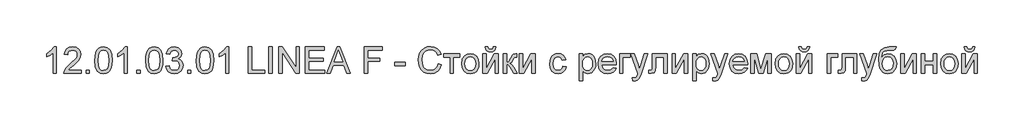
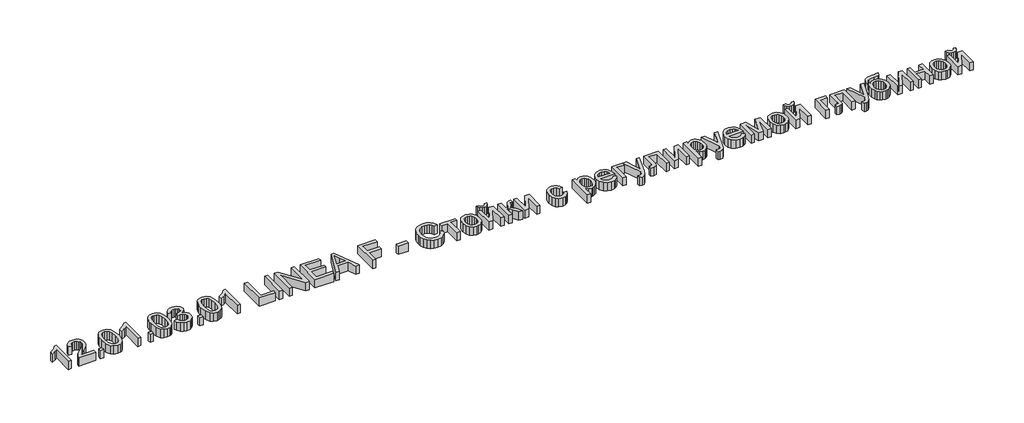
# One storey, part 6 of 9: 1 proxy.
"""IFC4 building model written with IfcOpenShell, lengths in millimetres."""

from ifc_helpers import new_model, si_unit, origin, origin_with_axes, place, context, project, spatial, polyline, outline, extrude, element, save

model = new_model("IFC4")

# Units and contexts
model_context = context("Model", 3, world=origin())
ifc_project = project(units=[si_unit("LENGTHUNIT", "METRE", prefix="MILLI")], contexts=[model_context])

# Site, building, storey
site = spatial("IfcSite", under=ifc_project)
building = spatial("IfcBuilding", under=site)
storey = spatial("IfcBuildingStorey", under=building, Name="Уровень 1", Elevation=0.0)

# Proxy
placement = place(None, origin())
element("IfcBuildingElementProxy", 1, Name="Надпись на модели 1", ObjectType="Надпись на модели 1", at=placement, inside=storey, context=model_context, shape_type="SweptSolid", body=[
    extrude(outline(polyline([(-45259.6762415, -17347.5177415), (-45278.13778, -17347.5177415), (-45278.13778, -17232.4215877), (-45295.6257608, -17244.8795203), (-45315.0608569, -17254.2004338), (-45315.0608569, -17236.7485107), (-45287.9995588, -17219.4768761), (-45271.57528, -17199.8254338), (-45259.6762415, -17199.8254338), (-45259.6762415, -17347.5177415)])), origin_with_axes(), (0.0, 0.0, 1.0), 50.0),
    extrude(outline(polyline([(-45121.2147031, -17329.056203), (-45121.2147031, -17347.5177415), (-45218.13778, -17347.5177415), (-45216.1546069, -17334.7893761), (-45204.9406646, -17315.1920203), (-45181.8276838, -17293.79178), (-45149.9526838, -17263.0345684), (-45143.9761213, -17252.4336069), (-45141.9839338, -17242.1211069), (-45143.8634411, -17232.876816), (-45149.5019627, -17225.1920203), (-45158.1693305, -17220.0132343), (-45169.1353762, -17218.2869723), (-45180.6513016, -17219.9726694), (-45189.5981165, -17225.0297607), (-45195.3718545, -17233.0616117), (-45197.3685492, -17243.6715877), (-45215.8300877, -17241.3638953), (-45211.3544266, -17223.5063232), (-45201.6774435, -17210.462453), (-45187.3039459, -17202.4846886), (-45168.7387415, -17199.8254338), (-45150.0383209, -17202.7821646), (-45135.6918665, -17211.6523569), (-45126.5647632, -17224.9035588), (-45123.5223954, -17241.0033184), (-45126.8036454, -17258.509328), (-45137.7110973, -17276.6102896), (-45164.1594146, -17301.9047607), (-45185.3973954, -17319.6631742), (-45193.7267223, -17329.056203), (-45121.2147031, -17329.056203)])), origin_with_axes(), (0.0, 0.0, 1.0), 50.0),
    extrude(outline(polyline([(-45093.5223954, -17347.5177415), (-45093.5223954, -17329.056203), (-45075.0608569, -17329.056203), (-45075.0608569, -17347.5177415), (-45093.5223954, -17347.5177415)])), origin_with_axes(), (0.0, 0.0, 1.0), 50.0),
    extrude(outline(polyline([(-45045.0608569, -17274.8614915), (-45043.7041863, -17251.221167), (-45039.6341742, -17232.3675011), (-45032.8913858, -17218.0120324), (-45023.5163858, -17207.8662992), (-45011.4415661, -17201.8356502), (-44996.5993185, -17199.8254338), (-44975.0368185, -17204.5850492), (-44960.1449915, -17218.3050011), (-44951.4911454, -17240.1559627), (-44948.13778, -17274.8614915), (-44949.480929, -17298.3665997), (-44953.5103762, -17317.1751934), (-44960.2125997, -17331.5441838), (-44969.5740781, -17341.7304819), (-44981.6759411, -17347.8016958), (-44996.5993185, -17349.8254338), (-45015.7820108, -17346.3098088), (-45030.3493185, -17335.7629338), (-45041.3829723, -17310.7839675), (-45045.0608569, -17274.8614915)]), holes=[polyline([(-45026.5993185, -17274.8254338), (-45024.4358569, -17303.8653977), (-45017.9454723, -17320.6727896), (-45008.2820108, -17328.6911189), (-44996.5993185, -17331.3638953), (-44984.9166262, -17328.6821045), (-44975.2531646, -17320.6367319), (-44968.76278, -17303.8203256), (-44966.5993185, -17274.8254338), (-44968.6906646, -17246.4390155), (-44974.9647031, -17229.5009146), (-44984.6101358, -17221.0904578), (-44996.8156646, -17218.2869723), (-45008.372155, -17220.7569242), (-45017.6570108, -17228.16678), (-45024.3637415, -17246.1595684), (-45026.5993185, -17274.8254338)])]), origin_with_axes(), (0.0, 0.0, 1.0), 50.0),
    extrude(outline(polyline([(-44862.7531646, -17347.5177415), (-44881.2147031, -17347.5177415), (-44881.2147031, -17232.4215877), (-44898.7026838, -17244.8795203), (-44918.13778, -17254.2004338), (-44918.13778, -17236.7485107), (-44891.0764819, -17219.4768761), (-44874.6522031, -17199.8254338), (-44862.7531646, -17199.8254338), (-44862.7531646, -17347.5177415)])), origin_with_axes(), (0.0, 0.0, 1.0), 50.0),
    extrude(outline(polyline([(-44809.6762415, -17347.5177415), (-44809.6762415, -17329.056203), (-44791.2147031, -17329.056203), (-44791.2147031, -17347.5177415), (-44809.6762415, -17347.5177415)])), origin_with_axes(), (0.0, 0.0, 1.0), 50.0),
    extrude(outline(polyline([(-44761.2147031, -17274.8614915), (-44759.8580324, -17251.221167), (-44755.7880204, -17232.3675011), (-44749.0452319, -17218.0120324), (-44739.6702319, -17207.8662992), (-44727.5954122, -17201.8356502), (-44712.7531646, -17199.8254338), (-44691.1906646, -17204.5850492), (-44676.2988377, -17218.3050011), (-44667.6449915, -17240.1559627), (-44664.2916262, -17274.8614915), (-44665.6347752, -17298.3665997), (-44669.6642223, -17317.1751934), (-44676.3664459, -17331.5441838), (-44685.7279242, -17341.7304819), (-44697.8297872, -17347.8016958), (-44712.7531646, -17349.8254338), (-44731.9358569, -17346.3098088), (-44746.5031646, -17335.7629338), (-44757.5368185, -17310.7839675), (-44761.2147031, -17274.8614915)]), holes=[polyline([(-44742.7531646, -17274.8254338), (-44740.5897031, -17303.8653977), (-44734.0993185, -17320.6727896), (-44724.4358569, -17328.6911189), (-44712.7531646, -17331.3638953), (-44701.0704723, -17328.6821045), (-44691.4070108, -17320.6367319), (-44684.9166262, -17303.8203256), (-44682.7531646, -17274.8254338), (-44684.8445108, -17246.4390155), (-44691.1185492, -17229.5009146), (-44700.7639819, -17221.0904578), (-44712.9695108, -17218.2869723), (-44724.5260012, -17220.7569242), (-44733.8108569, -17228.16678), (-44740.5175877, -17246.1595684), (-44742.7531646, -17274.8254338)])]), origin_with_axes(), (0.0, 0.0, 1.0), 50.0),
    extrude(outline(polyline([(-44648.13778, -17308.2869723), (-44629.6762415, -17305.97928), (-44625.5431286, -17317.5808425), (-44619.4899435, -17325.4143761), (-44611.2192103, -17329.8765155), (-44600.4334531, -17331.3638953), (-44587.7772031, -17329.3176213), (-44578.0055685, -17323.1787992), (-44571.7585733, -17314.0201453), (-44569.6762415, -17302.9143761), (-44571.7405444, -17292.3720083), (-44577.9334531, -17283.821828), (-44587.3084531, -17278.1562631), (-44598.91903, -17276.2677415), (-44611.8637415, -17278.2869723), (-44609.8084531, -17259.8254338), (-44606.8517223, -17260.04178), (-44585.9022031, -17254.7412992), (-44578.9250396, -17248.0165396), (-44576.5993185, -17238.4432223), (-44578.2850156, -17230.4699651), (-44583.3421069, -17224.0021165), (-44591.0584531, -17219.7157583), (-44600.7219146, -17218.2869723), (-44610.403405, -17219.72928), (-44618.3180685, -17224.056203), (-44624.0963137, -17231.2677415), (-44627.3685492, -17241.3638953), (-44645.8300877, -17239.056203), (-44640.3943906, -17222.478679), (-44630.7219146, -17210.1018761), (-44617.4887415, -17202.3945444), (-44601.3709531, -17199.8254338), (-44579.1053281, -17204.8915396), (-44563.528405, -17218.7376934), (-44558.13778, -17237.3614915), (-44563.2579723, -17254.3807223), (-44578.4022031, -17266.60428), (-44566.8457127, -17271.2737511), (-44558.2820108, -17279.2244723), (-44552.98153, -17290.0237511), (-44551.2147031, -17303.2388953), (-44554.7483569, -17321.2316838), (-44565.3493185, -17336.2677415), (-44581.3499194, -17346.4360107), (-44601.0824915, -17349.8254338), (-44618.9310492, -17346.931804), (-44633.4622992, -17338.2509146), (-44643.5674675, -17324.9726694), (-44648.13778, -17308.2869723)])), origin_with_axes(), (0.0, 0.0, 1.0), 50.0),
    extrude(outline(polyline([(-44525.8300877, -17347.5177415), (-44525.8300877, -17329.056203), (-44507.3685492, -17329.056203), (-44507.3685492, -17347.5177415), (-44525.8300877, -17347.5177415)])), origin_with_axes(), (0.0, 0.0, 1.0), 50.0),
    extrude(outline(polyline([(-44477.3685492, -17274.8614915), (-44476.0118786, -17251.221167), (-44471.9418665, -17232.3675011), (-44465.1990781, -17218.0120324), (-44455.8240781, -17207.8662992), (-44443.7492584, -17201.8356502), (-44428.9070108, -17199.8254338), (-44407.3445108, -17204.5850492), (-44392.4526838, -17218.3050011), (-44383.7988377, -17240.1559627), (-44380.4454723, -17274.8614915), (-44381.7886213, -17298.3665997), (-44385.8180685, -17317.1751934), (-44392.520292, -17331.5441838), (-44401.8817704, -17341.7304819), (-44413.9836334, -17347.8016958), (-44428.9070108, -17349.8254338), (-44448.0897031, -17346.3098088), (-44462.6570108, -17335.7629338), (-44473.6906646, -17310.7839675), (-44477.3685492, -17274.8614915)]), holes=[polyline([(-44458.9070108, -17274.8254338), (-44456.7435492, -17303.8653977), (-44450.2531646, -17320.6727896), (-44440.5897031, -17328.6911189), (-44428.9070108, -17331.3638953), (-44417.2243185, -17328.6821045), (-44407.5608569, -17320.6367319), (-44401.0704723, -17303.8203256), (-44398.9070108, -17274.8254338), (-44400.9983569, -17246.4390155), (-44407.2723954, -17229.5009146), (-44416.9178281, -17221.0904578), (-44429.1233569, -17218.2869723), (-44440.6798473, -17220.7569242), (-44449.9647031, -17228.16678), (-44456.6714338, -17246.1595684), (-44458.9070108, -17274.8254338)])]), origin_with_axes(), (0.0, 0.0, 1.0), 50.0),
    extrude(outline(polyline([(-44295.0608569, -17347.5177415), (-44313.5223954, -17347.5177415), (-44313.5223954, -17232.4215877), (-44331.0103762, -17244.8795203), (-44350.4454723, -17254.2004338), (-44350.4454723, -17236.7485107), (-44323.3841742, -17219.4768761), (-44306.9598954, -17199.8254338), (-44295.0608569, -17199.8254338), (-44295.0608569, -17347.5177415)])), origin_with_axes(), (0.0, 0.0, 1.0), 50.0),
    extrude(outline(polyline([(-44186.5993185, -17347.5177415), (-44186.5993185, -17199.8254338), (-44168.13778, -17199.8254338), (-44168.13778, -17329.056203), (-44094.2916262, -17329.056203), (-44094.2916262, -17347.5177415), (-44186.5993185, -17347.5177415)])), origin_with_axes(), (0.0, 0.0, 1.0), 50.0),
    extrude(outline(polyline([(-44071.2147031, -17347.5177415), (-44071.2147031, -17199.8254338), (-44052.7531646, -17199.8254338), (-44052.7531646, -17347.5177415), (-44071.2147031, -17347.5177415)])), origin_with_axes(), (0.0, 0.0, 1.0), 50.0),
    extrude(outline(polyline([(-44015.8300877, -17347.5177415), (-44015.8300877, -17199.8254338), (-43996.0704723, -17199.8254338), (-43918.9070108, -17316.8326453), (-43918.9070108, -17199.8254338), (-43900.4454723, -17199.8254338), (-43900.4454723, -17347.5177415), (-43920.2050877, -17347.5177415), (-43997.3685492, -17230.4744723), (-43997.3685492, -17347.5177415), (-44015.8300877, -17347.5177415)])), origin_with_axes(), (0.0, 0.0, 1.0), 50.0),
    extrude(outline(polyline([(-43868.13778, -17347.5177415), (-43868.13778, -17199.8254338), (-43761.9839338, -17199.8254338), (-43761.9839338, -17218.2869723), (-43849.6762415, -17218.2869723), (-43849.6762415, -17262.1331261), (-43766.5993185, -17262.1331261), (-43766.5993185, -17280.5946646), (-43849.6762415, -17280.5946646), (-43849.6762415, -17329.056203), (-43759.6762415, -17329.056203), (-43759.6762415, -17347.5177415), (-43868.13778, -17347.5177415)])), origin_with_axes(), (0.0, 0.0, 1.0), 50.0),
    extrude(outline(polyline([(-43749.1834531, -17347.5177415), (-43690.2291262, -17199.8254338), (-43674.5079723, -17199.8254338), (-43615.5536454, -17347.5177415), (-43635.0608569, -17347.5177415), (-43651.9719146, -17301.3638953), (-43712.8012415, -17301.3638953), (-43729.6762415, -17347.5177415), (-43749.1834531, -17347.5177415)]), holes=[polyline([(-43706.0223954, -17282.9023569), (-43658.7147031, -17282.9023569), (-43672.0199915, -17246.5922607), (-43682.3685492, -17218.2869723), (-43691.5632608, -17243.4191838), (-43706.0223954, -17282.9023569)])]), origin_with_axes(), (0.0, 0.0, 1.0), 50.0),
    extrude(outline(polyline([(-43538.13778, -17347.5177415), (-43538.13778, -17199.8254338), (-43438.9070108, -17199.8254338), (-43438.9070108, -17218.2869723), (-43519.6762415, -17218.2869723), (-43519.6762415, -17262.1331261), (-43450.4454723, -17262.1331261), (-43450.4454723, -17280.5946646), (-43519.6762415, -17280.5946646), (-43519.6762415, -17347.5177415), (-43538.13778, -17347.5177415)])), origin_with_axes(), (0.0, 0.0, 1.0), 50.0),
    extrude(outline(polyline([(-43367.3685492, -17303.6715877), (-43367.3685492, -17285.2100492), (-43309.6762415, -17285.2100492), (-43309.6762415, -17303.6715877), (-43367.3685492, -17303.6715877)])), origin_with_axes(), (0.0, 0.0, 1.0), 50.0),
    extrude(outline(polyline([(-43125.0608569, -17295.0177415), (-43106.5993185, -17299.7773569), (-43115.1179483, -17321.2902776), (-43128.4863377, -17337.0069242), (-43146.0464338, -17346.6208064), (-43167.1401838, -17349.8254338), (-43188.5539459, -17347.400554), (-43205.559655, -17340.1259146), (-43218.5945108, -17328.2539194), (-43228.0957127, -17312.0369723), (-43233.8964939, -17292.9714675), (-43235.8300877, -17272.5537992), (-43233.6440901, -17251.0183425), (-43227.0860973, -17232.4215877), (-43216.4986574, -17217.3539795), (-43202.2243185, -17206.4059627), (-43185.2952319, -17199.7397968), (-43166.7435492, -17197.5177415), (-43146.5016622, -17200.3933425), (-43129.7663858, -17209.0201453), (-43117.0605564, -17222.8662992), (-43108.9070108, -17241.399953), (-43127.3685492, -17245.7989915), (-43133.7687896, -17232.3359506), (-43142.51278, -17223.1006742), (-43153.7086935, -17217.7596285), (-43167.4647031, -17215.97928), (-43183.3210733, -17217.9534386), (-43196.3469146, -17223.8759146), (-43206.2312295, -17233.1247127), (-43212.6630204, -17245.0778377), (-43217.3685492, -17272.5177415), (-43211.7976358, -17304.3206261), (-43204.6762415, -17316.1971285), (-43194.4538858, -17324.6391357), (-43182.1987776, -17329.6827054), (-43168.9791262, -17331.3638953), (-43153.5689699, -17329.0742319), (-43140.7279242, -17322.2052415), (-43131.0329122, -17310.8290396), (-43125.0608569, -17295.0177415)])), origin_with_axes(), (0.0, 0.0, 1.0), 50.0),
    extrude(outline(polyline([(-43092.7531646, -17239.056203), (-43005.0608569, -17239.056203), (-43005.0608569, -17257.5177415), (-43039.6762415, -17257.5177415), (-43039.6762415, -17347.5177415), (-43058.13778, -17347.5177415), (-43058.13778, -17257.5177415), (-43092.7531646, -17257.5177415), (-43092.7531646, -17239.056203)])), origin_with_axes(), (0.0, 0.0, 1.0), 50.0),
    extrude(outline(polyline([(-42993.5223954, -17293.2869723), (-42989.529006, -17267.1361309), (-42977.5488377, -17248.7557223), (-42962.747155, -17239.7503136), (-42945.0247992, -17236.7485107), (-42925.630268, -17240.4038593), (-42910.1389819, -17251.369905), (-42899.9842343, -17268.7812631), (-42896.5993185, -17291.7725492), (-42898.0957127, -17310.4233905), (-42902.5848954, -17324.6211069), (-42909.9361574, -17335.2536189), (-42920.0187896, -17343.2088473), (-42931.9944507, -17348.1712872), (-42945.0247992, -17349.8254338), (-42964.6537055, -17346.1836069), (-42980.1269627, -17335.2581261), (-42990.1735372, -17317.4816838), (-42993.5223954, -17293.2869723)]), holes=[polyline([(-42975.0608569, -17293.2509146), (-42972.9244387, -17309.9591477), (-42966.5151838, -17321.8626934), (-42956.8697512, -17328.9885949), (-42945.0247992, -17331.3638953), (-42933.2339338, -17328.9750732), (-42923.60653, -17321.8086069), (-42917.1972752, -17309.7473088), (-42915.0608569, -17292.6739915), (-42917.2107968, -17276.4525372), (-42923.6606165, -17264.7112511), (-42933.301542, -17257.5853497), (-42945.0247992, -17255.2100492), (-42956.8697512, -17257.5763352), (-42966.5151838, -17264.6751934), (-42972.9244387, -17276.5516958), (-42975.0608569, -17293.2509146)])]), origin_with_axes(), (0.0, 0.0, 1.0), 50.0),
    extrude(outline(polyline([(-42815.8300877, -17199.8254338), (-42801.9839338, -17199.8254338), (-42804.9632007, -17211.6478497), (-42810.9442704, -17220.3602896), (-42819.6567103, -17225.7283785), (-42830.8300877, -17227.5177415), (-42842.9544867, -17225.7419002), (-42852.35653, -17220.4143761), (-42858.7838137, -17211.7154578), (-42861.9839338, -17199.8254338), (-42848.13778, -17199.8254338), (-42842.9454723, -17210.228078), (-42832.4887415, -17213.6715877), (-42821.0223954, -17210.3362511), (-42815.8300877, -17199.8254338)])), origin_with_axes(), (0.0, 0.0, 1.0), 50.0),
    extrude(outline(polyline([(-42875.8300877, -17239.056203), (-42857.3685492, -17239.056203), (-42857.3685492, -17321.7725492), (-42812.0079723, -17239.056203), (-42788.13778, -17239.056203), (-42788.13778, -17347.5177415), (-42806.5993185, -17347.5177415), (-42806.5993185, -17265.306203), (-42851.6714338, -17347.5177415), (-42875.8300877, -17347.5177415), (-42875.8300877, -17239.056203)])), origin_with_axes(), (0.0, 0.0, 1.0), 50.0),
    extrude(outline(polyline([(-42760.4454723, -17239.056203), (-42741.9839338, -17239.056203), (-42741.9839338, -17285.2100492), (-42729.6161454, -17281.8927415), (-42719.4839338, -17262.5658184), (-42711.0644627, -17245.8891357), (-42703.6365781, -17240.462453), (-42690.1329723, -17239.056203), (-42686.5993185, -17239.056203), (-42686.5993185, -17257.6259146), (-42691.57528, -17257.5177415), (-42700.5897031, -17259.4648569), (-42706.9358569, -17271.6162992), (-42714.3817704, -17284.759328), (-42724.8204723, -17291.1956261), (-42713.1738377, -17298.3801213), (-42701.7435492, -17313.5153377), (-42681.9839338, -17347.5177415), (-42702.9695108, -17347.5177415), (-42722.3324915, -17314.2364915), (-42732.0680685, -17300.1559627), (-42741.9839338, -17296.7485107), (-42741.9839338, -17347.5177415), (-42760.4454723, -17347.5177415), (-42760.4454723, -17239.056203)])), origin_with_axes(), (0.0, 0.0, 1.0), 50.0),
    extrude(outline(polyline([(-42670.4454723, -17239.056203), (-42651.9839338, -17239.056203), (-42651.9839338, -17321.7725492), (-42606.6233569, -17239.056203), (-42582.7531646, -17239.056203), (-42582.7531646, -17347.5177415), (-42601.2147031, -17347.5177415), (-42601.2147031, -17265.306203), (-42646.2868185, -17347.5177415), (-42670.4454723, -17347.5177415), (-42670.4454723, -17239.056203)])), origin_with_axes(), (0.0, 0.0, 1.0), 50.0),
    extrude(outline(polyline([(-42428.13778, -17308.2869723), (-42409.6762415, -17310.5946646), (-42414.8234771, -17327.0144362), (-42424.4959531, -17339.4227896), (-42437.7832127, -17347.2247727), (-42453.7747992, -17349.8254338), (-42473.4127199, -17346.1971285), (-42488.7687896, -17335.3122127), (-42498.6801478, -17317.6484506), (-42501.9839338, -17293.6836069), (-42496.340905, -17263.0165396), (-42489.2195108, -17251.5186429), (-42479.1413858, -17243.3110107), (-42467.0845949, -17238.3891357), (-42454.0272031, -17236.7485107), (-42438.4277439, -17239.0021165), (-42425.9562896, -17245.7629338), (-42417.0094747, -17256.6703857), (-42411.9839338, -17271.3638953), (-42430.4454723, -17273.6715877), (-42439.0091742, -17259.8434627), (-42453.8829723, -17255.2100492), (-42465.8135613, -17257.4906982), (-42475.2832127, -17264.3326453), (-42481.4625997, -17276.1054819), (-42483.5223954, -17293.1787992), (-42481.5076718, -17310.4819843), (-42475.4635012, -17322.2953857), (-42466.1651238, -17329.0967679), (-42454.38778, -17331.3638953), (-42444.8279843, -17329.9486309), (-42436.9899435, -17325.7028377), (-42431.2883209, -17318.5183425), (-42428.13778, -17308.2869723)])), origin_with_axes(), (0.0, 0.0, 1.0), 50.0),
    extrude(outline(polyline([(-42335.8300877, -17389.056203), (-42335.8300877, -17239.056203), (-42317.3685492, -17239.056203), (-42317.3685492, -17257.1571646), (-42304.6041262, -17241.8506742), (-42287.3685492, -17236.7485107), (-42274.8835733, -17238.5333665), (-42263.9671069, -17243.8879338), (-42255.0788858, -17252.4876934), (-42248.6786454, -17264.0081261), (-42243.5223954, -17292.4576453), (-42244.9782247, -17308.2464074), (-42249.3457127, -17322.3675011), (-42256.4851358, -17334.10428), (-42266.2567704, -17342.7400973), (-42277.6374795, -17348.0540997), (-42289.6041262, -17349.8254338), (-42305.6678281, -17345.0838473), (-42317.3685492, -17333.0946646), (-42317.3685492, -17389.056203), (-42335.8300877, -17389.056203)]), holes=[polyline([(-42317.3685492, -17294.1523569), (-42315.3718545, -17310.7028377), (-42309.3817704, -17322.2773569), (-42300.5431286, -17329.0922607), (-42290.0007608, -17331.3638953), (-42279.2871189, -17329.0111309), (-42270.2231165, -17321.9528377), (-42264.0437295, -17309.9546405), (-42261.9839338, -17292.7821646), (-42263.9941502, -17276.321828), (-42270.0247992, -17264.5850492), (-42278.8499194, -17257.5537992), (-42289.2435492, -17255.2100492), (-42299.6777439, -17257.7025372), (-42308.840905, -17265.1800011), (-42315.2366382, -17277.408066), (-42317.3685492, -17294.1523569)])]), origin_with_axes(), (0.0, 0.0, 1.0), 50.0),
    extrude(outline(polyline([(-42146.8156646, -17315.2100492), (-42128.7147031, -17317.5177415), (-42135.2366382, -17331.1565636), (-42145.6437896, -17341.3518761), (-42159.7017824, -17347.7070444), (-42177.1762415, -17349.8254338), (-42198.8379002, -17346.1700852), (-42215.5055685, -17335.2040396), (-42226.1335733, -17317.6394362), (-42229.6762415, -17294.1884146), (-42226.0975156, -17269.9486309), (-42215.3613377, -17251.8206261), (-42198.91903, -17240.5165396), (-42178.2219146, -17236.7485107), (-42158.1693305, -17240.5075252), (-42142.1461935, -17251.7845684), (-42131.6398834, -17269.8765155), (-42128.13778, -17294.0802415), (-42128.2459531, -17299.056203), (-42211.2147031, -17299.056203), (-42208.0190901, -17312.8753136), (-42200.5957127, -17323.0345684), (-42189.8820709, -17329.2815636), (-42176.8156646, -17331.3638953), (-42158.7147031, -17327.5057223), (-42146.8156646, -17315.2100492)]), holes=[polyline([(-42211.2147031, -17280.5946646), (-42146.5993185, -17280.5946646), (-42149.0963137, -17270.8410588), (-42153.9911454, -17263.8638953), (-42164.7543665, -17257.3735107), (-42178.29403, -17255.2100492), (-42190.7384411, -17256.9363112), (-42201.028405, -17262.1150973), (-42208.1813497, -17270.1875131), (-42211.2147031, -17280.5946646)])]), origin_with_axes(), (0.0, 0.0, 1.0), 50.0),
    extrude(outline(polyline([(-42109.6762415, -17239.056203), (-42049.6762415, -17239.056203), (-42049.6762415, -17257.5177415), (-42091.2147031, -17257.5177415), (-42091.2147031, -17347.5177415), (-42109.6762415, -17347.5177415), (-42109.6762415, -17239.056203)])), origin_with_axes(), (0.0, 0.0, 1.0), 50.0),
    extrude(outline(polyline([(-42035.8300877, -17389.056203), (-42038.13778, -17371.2797607), (-42028.76278, -17372.9023569), (-42020.0007608, -17370.8650973), (-42014.6281646, -17365.1860107), (-42009.5800877, -17351.5922607), (-42008.13778, -17347.1211069), (-42047.3685492, -17239.056203), (-42027.8973954, -17239.056203), (-42007.0921069, -17299.2725492), (-41999.8445108, -17323.3590877), (-41992.5969146, -17302.0850492), (-41971.2147031, -17239.056203), (-41951.88778, -17239.056203), (-41989.6401838, -17350.1138953), (-41999.4478762, -17374.2004338), (-42010.1570108, -17387.2172607), (-42024.54403, -17391.3638953), (-42035.8300877, -17389.056203)])), origin_with_axes(), (0.0, 0.0, 1.0), 50.0),
    extrude(outline(polyline([(-41927.3685492, -17239.056203), (-41844.2916262, -17239.056203), (-41844.2916262, -17347.4095684), (-41862.7531646, -17347.4095684), (-41862.7531646, -17257.5177415), (-41908.9070108, -17257.5177415), (-41908.9070108, -17309.26053), (-41910.1510012, -17333.1307223), (-41916.9839338, -17343.2088473), (-41933.13778, -17347.5177415), (-41948.13778, -17346.5802415), (-41948.13778, -17329.056203), (-41939.8805685, -17329.056203), (-41931.5332127, -17327.9203857), (-41928.1978762, -17324.3146165), (-41927.3685492, -17308.2148569), (-41927.3685492, -17239.056203)])), origin_with_axes(), (0.0, 0.0, 1.0), 50.0),
    extrude(outline(polyline([(-41816.5993185, -17239.056203), (-41798.13778, -17239.056203), (-41798.13778, -17321.7725492), (-41752.7772031, -17239.056203), (-41728.9070108, -17239.056203), (-41728.9070108, -17347.5177415), (-41747.3685492, -17347.5177415), (-41747.3685492, -17265.306203), (-41792.4406646, -17347.5177415), (-41816.5993185, -17347.5177415), (-41816.5993185, -17239.056203)])), origin_with_axes(), (0.0, 0.0, 1.0), 50.0),
    extrude(outline(polyline([(-41701.2147031, -17389.056203), (-41701.2147031, -17239.056203), (-41682.7531646, -17239.056203), (-41682.7531646, -17257.1571646), (-41669.9887415, -17241.8506742), (-41652.7531646, -17236.7485107), (-41640.2681887, -17238.5333665), (-41629.3517223, -17243.8879338), (-41620.4635012, -17252.4876934), (-41614.0632608, -17264.0081261), (-41608.9070108, -17292.4576453), (-41610.3628401, -17308.2464074), (-41614.7303281, -17322.3675011), (-41621.8697512, -17334.10428), (-41631.6413858, -17342.7400973), (-41643.0220949, -17348.0540997), (-41654.9887415, -17349.8254338), (-41671.0524435, -17345.0838473), (-41682.7531646, -17333.0946646), (-41682.7531646, -17389.056203), (-41701.2147031, -17389.056203)]), holes=[polyline([(-41682.7531646, -17294.1523569), (-41680.7564699, -17310.7028377), (-41674.7663858, -17322.2773569), (-41665.9277439, -17329.0922607), (-41655.3853762, -17331.3638953), (-41644.6717343, -17329.0111309), (-41635.6077319, -17321.9528377), (-41629.4283449, -17309.9546405), (-41627.3685492, -17292.7821646), (-41629.3787656, -17276.321828), (-41635.4094146, -17264.5850492), (-41644.2345348, -17257.5537992), (-41654.6281646, -17255.2100492), (-41665.0623593, -17257.7025372), (-41674.2255204, -17265.1800011), (-41680.6212536, -17277.408066), (-41682.7531646, -17294.1523569)])]), origin_with_axes(), (0.0, 0.0, 1.0), 50.0),
    extrude(outline(polyline([(-41588.13778, -17389.056203), (-41590.4454723, -17371.2797607), (-41581.0704723, -17372.9023569), (-41572.3084531, -17370.8650973), (-41566.9358569, -17365.1860107), (-41561.88778, -17351.5922607), (-41560.4454723, -17347.1211069), (-41599.6762415, -17239.056203), (-41580.2050877, -17239.056203), (-41559.3997992, -17299.2725492), (-41552.1522031, -17323.3590877), (-41544.9046069, -17302.0850492), (-41523.5223954, -17239.056203), (-41504.1954723, -17239.056203), (-41541.9478762, -17350.1138953), (-41551.7555685, -17374.2004338), (-41562.4647031, -17387.2172607), (-41576.8517223, -17391.3638953), (-41588.13778, -17389.056203)])), origin_with_axes(), (0.0, 0.0, 1.0), 50.0),
    extrude(outline(polyline([(-41412.9695108, -17315.2100492), (-41394.8685492, -17317.5177415), (-41401.3904843, -17331.1565636), (-41411.7976358, -17341.3518761), (-41425.8556286, -17347.7070444), (-41443.3300877, -17349.8254338), (-41464.9917463, -17346.1700852), (-41481.6594146, -17335.2040396), (-41492.2874194, -17317.6394362), (-41495.8300877, -17294.1884146), (-41492.2513617, -17269.9486309), (-41481.5151838, -17251.8206261), (-41465.0728762, -17240.5165396), (-41444.3757608, -17236.7485107), (-41424.3231766, -17240.5075252), (-41408.3000396, -17251.7845684), (-41397.7937295, -17269.8765155), (-41394.2916262, -17294.0802415), (-41394.3997992, -17299.056203), (-41477.3685492, -17299.056203), (-41474.1729363, -17312.8753136), (-41466.7495588, -17323.0345684), (-41456.035917, -17329.2815636), (-41442.9695108, -17331.3638953), (-41424.8685492, -17327.5057223), (-41412.9695108, -17315.2100492)]), holes=[polyline([(-41477.3685492, -17280.5946646), (-41412.7531646, -17280.5946646), (-41415.2501598, -17270.8410588), (-41420.1449915, -17263.8638953), (-41430.9082127, -17257.3735107), (-41444.4478762, -17255.2100492), (-41456.8922872, -17256.9363112), (-41467.1822512, -17262.1150973), (-41474.3351959, -17270.1875131), (-41477.3685492, -17280.5946646)])]), origin_with_axes(), (0.0, 0.0, 1.0), 50.0),
    extrude(outline(polyline([(-41375.8300877, -17239.056203), (-41344.0632608, -17239.056203), (-41319.5800877, -17325.8831261), (-41293.1858569, -17239.056203), (-41262.7531646, -17239.056203), (-41262.7531646, -17347.5177415), (-41281.2147031, -17347.5177415), (-41281.2147031, -17260.1860107), (-41307.7531646, -17347.5177415), (-41331.9839338, -17347.5177415), (-41357.3685492, -17256.0033184), (-41357.3685492, -17347.5177415), (-41375.8300877, -17347.5177415), (-41375.8300877, -17239.056203)])), origin_with_axes(), (0.0, 0.0, 1.0), 50.0),
    extrude(outline(polyline([(-41239.6762415, -17293.2869723), (-41235.6828521, -17267.1361309), (-41223.7026838, -17248.7557223), (-41208.9010012, -17239.7503136), (-41191.1786454, -17236.7485107), (-41171.7841141, -17240.4038593), (-41156.2928281, -17251.369905), (-41146.1380805, -17268.7812631), (-41142.7531646, -17291.7725492), (-41144.2495588, -17310.4233905), (-41148.7387415, -17324.6211069), (-41156.0900036, -17335.2536189), (-41166.1726358, -17343.2088473), (-41178.1482968, -17348.1712872), (-41191.1786454, -17349.8254338), (-41210.8075516, -17346.1836069), (-41226.2808088, -17335.2581261), (-41236.3273834, -17317.4816838), (-41239.6762415, -17293.2869723)]), holes=[polyline([(-41221.2147031, -17293.2509146), (-41219.0782848, -17309.9591477), (-41212.66903, -17321.8626934), (-41203.0235973, -17328.9885949), (-41191.1786454, -17331.3638953), (-41179.38778, -17328.9750732), (-41169.7603762, -17321.8086069), (-41163.3511213, -17309.7473088), (-41161.2147031, -17292.6739915), (-41163.364643, -17276.4525372), (-41169.8144627, -17264.7112511), (-41179.4553882, -17257.5853497), (-41191.1786454, -17255.2100492), (-41203.0235973, -17257.5763352), (-41212.66903, -17264.6751934), (-41219.0782848, -17276.5516958), (-41221.2147031, -17293.2509146)])]), origin_with_axes(), (0.0, 0.0, 1.0), 50.0),
    extrude(outline(polyline([(-41061.9839338, -17199.8254338), (-41048.13778, -17199.8254338), (-41051.1170468, -17211.6478497), (-41057.0981165, -17220.3602896), (-41065.8105564, -17225.7283785), (-41076.9839338, -17227.5177415), (-41089.1083329, -17225.7419002), (-41098.5103762, -17220.4143761), (-41104.9376598, -17211.7154578), (-41108.13778, -17199.8254338), (-41094.2916262, -17199.8254338), (-41089.0993185, -17210.228078), (-41078.6425877, -17213.6715877), (-41067.1762415, -17210.3362511), (-41061.9839338, -17199.8254338)])), origin_with_axes(), (0.0, 0.0, 1.0), 50.0),
    extrude(outline(polyline([(-41121.9839338, -17239.056203), (-41103.5223954, -17239.056203), (-41103.5223954, -17321.7725492), (-41058.1618185, -17239.056203), (-41034.2916262, -17239.056203), (-41034.2916262, -17347.5177415), (-41052.7531646, -17347.5177415), (-41052.7531646, -17265.306203), (-41097.82528, -17347.5177415), (-41121.9839338, -17347.5177415), (-41121.9839338, -17239.056203)])), origin_with_axes(), (0.0, 0.0, 1.0), 50.0),
    extrude(outline(polyline([(-40948.9070108, -17239.056203), (-40888.9070108, -17239.056203), (-40888.9070108, -17257.5177415), (-40930.4454723, -17257.5177415), (-40930.4454723, -17347.5177415), (-40948.9070108, -17347.5177415), (-40948.9070108, -17239.056203)])), origin_with_axes(), (0.0, 0.0, 1.0), 50.0),
    extrude(outline(polyline([(-40865.8300877, -17239.056203), (-40782.7531646, -17239.056203), (-40782.7531646, -17347.4095684), (-40801.2147031, -17347.4095684), (-40801.2147031, -17257.5177415), (-40847.3685492, -17257.5177415), (-40847.3685492, -17309.26053), (-40848.6125396, -17333.1307223), (-40855.4454723, -17343.2088473), (-40871.5993185, -17347.5177415), (-40886.5993185, -17346.5802415), (-40886.5993185, -17329.056203), (-40878.3421069, -17329.056203), (-40869.9947512, -17327.9203857), (-40866.6594146, -17324.3146165), (-40865.8300877, -17308.2148569), (-40865.8300877, -17239.056203)])), origin_with_axes(), (0.0, 0.0, 1.0), 50.0),
    extrude(outline(polyline([(-40755.0608569, -17389.056203), (-40757.3685492, -17371.2797607), (-40747.9935492, -17372.9023569), (-40739.23153, -17370.8650973), (-40733.8589338, -17365.1860107), (-40728.8108569, -17351.5922607), (-40727.3685492, -17347.1211069), (-40766.5993185, -17239.056203), (-40747.1281646, -17239.056203), (-40726.3228762, -17299.2725492), (-40719.07528, -17323.3590877), (-40711.8276838, -17302.0850492), (-40690.4454723, -17239.056203), (-40671.1185492, -17239.056203), (-40708.8709531, -17350.1138953), (-40718.6786454, -17374.2004338), (-40729.38778, -17387.2172607), (-40743.7747992, -17391.3638953), (-40755.0608569, -17389.056203)])), origin_with_axes(), (0.0, 0.0, 1.0), 50.0),
    extrude(outline(polyline([(-40579.6762415, -17197.5177415), (-40563.5223954, -17197.5177415), (-40568.2820108, -17211.9227896), (-40577.6930685, -17217.1331261), (-40600.3012415, -17218.2869723), (-40630.7519627, -17222.54178), (-40637.7381406, -17228.0766357), (-40642.434655, -17236.1715877), (-40646.3829723, -17260.2941838), (-40630.3913858, -17242.6259146), (-40609.7844146, -17236.7485107), (-40590.574679, -17240.4849891), (-40574.9887415, -17251.6944242), (-40564.6582127, -17269.2770564), (-40561.2147031, -17292.1331261), (-40562.9229363, -17309.7563232), (-40568.0476358, -17323.899953), (-40584.2555685, -17343.0646165), (-40595.32528, -17348.1352295), (-40609.7844146, -17349.8254338), (-40626.4475757, -17347.6484506), (-40638.9370588, -17341.1175011), (-40648.1272632, -17331.1926213), (-40654.8925877, -17318.8338473), (-40659.0572512, -17300.2235708), (-40660.4454723, -17271.5441838), (-40656.9433689, -17236.1220083), (-40646.4370588, -17214.5189434), (-40628.6651238, -17203.4988112), (-40603.3661454, -17199.8254338), (-40582.8132608, -17199.4107703), (-40579.6762415, -17197.5177415)]), holes=[polyline([(-40579.6762415, -17291.556203), (-40581.6774435, -17277.0294602), (-40587.6810492, -17265.3963473), (-40597.3264819, -17257.7566237), (-40610.2531646, -17255.2100492), (-40623.7297271, -17257.9008545), (-40633.7267223, -17265.9732703), (-40639.919631, -17278.5438833), (-40641.9839338, -17294.72928), (-40639.7032848, -17310.4188833), (-40632.8613377, -17321.9348088), (-40622.6750396, -17329.0066237), (-40610.3613377, -17331.3638953), (-40597.9845348, -17328.6370324), (-40588.1858569, -17320.4564434), (-40581.8036454, -17307.7776574), (-40579.6762415, -17291.556203)])]), origin_with_axes(), (0.0, 0.0, 1.0), 50.0),
    extrude(outline(polyline([(-40538.13778, -17239.056203), (-40519.6762415, -17239.056203), (-40519.6762415, -17321.7725492), (-40474.3156646, -17239.056203), (-40450.4454723, -17239.056203), (-40450.4454723, -17347.5177415), (-40468.9070108, -17347.5177415), (-40468.9070108, -17265.306203), (-40513.9791262, -17347.5177415), (-40538.13778, -17347.5177415), (-40538.13778, -17239.056203)])), origin_with_axes(), (0.0, 0.0, 1.0), 50.0),
    extrude(outline(polyline([(-40422.7531646, -17239.056203), (-40404.2916262, -17239.056203), (-40404.2916262, -17280.5946646), (-40355.8300877, -17280.5946646), (-40355.8300877, -17239.056203), (-40337.3685492, -17239.056203), (-40337.3685492, -17347.5177415), (-40355.8300877, -17347.5177415), (-40355.8300877, -17299.056203), (-40404.2916262, -17299.056203), (-40404.2916262, -17347.5177415), (-40422.7531646, -17347.5177415), (-40422.7531646, -17239.056203)])), origin_with_axes(), (0.0, 0.0, 1.0), 50.0),
    extrude(outline(polyline([(-40314.2916262, -17293.2869723), (-40310.2982367, -17267.1361309), (-40298.3180685, -17248.7557223), (-40283.5163858, -17239.7503136), (-40265.79403, -17236.7485107), (-40246.3994988, -17240.4038593), (-40230.9082127, -17251.369905), (-40220.7534651, -17268.7812631), (-40217.3685492, -17291.7725492), (-40218.8649435, -17310.4233905), (-40223.3541262, -17324.6211069), (-40230.7053882, -17335.2536189), (-40240.7880204, -17343.2088473), (-40252.7636814, -17348.1712872), (-40265.79403, -17349.8254338), (-40285.4229363, -17346.1836069), (-40300.8961935, -17335.2581261), (-40310.942768, -17317.4816838), (-40314.2916262, -17293.2869723)]), holes=[polyline([(-40295.8300877, -17293.2509146), (-40293.6936694, -17309.9591477), (-40287.2844146, -17321.8626934), (-40277.6389819, -17328.9885949), (-40265.79403, -17331.3638953), (-40254.0031646, -17328.9750732), (-40244.3757608, -17321.8086069), (-40237.966506, -17309.7473088), (-40235.8300877, -17292.6739915), (-40237.9800276, -17276.4525372), (-40244.4298473, -17264.7112511), (-40254.0707728, -17257.5853497), (-40265.79403, -17255.2100492), (-40277.6389819, -17257.5763352), (-40287.2844146, -17264.6751934), (-40293.6936694, -17276.5516958), (-40295.8300877, -17293.2509146)])]), origin_with_axes(), (0.0, 0.0, 1.0), 50.0),
    extrude(outline(polyline([(-40136.5993185, -17199.8254338), (-40122.7531646, -17199.8254338), (-40125.7324314, -17211.6478497), (-40131.7135012, -17220.3602896), (-40140.4259411, -17225.7283785), (-40151.5993185, -17227.5177415), (-40163.7237175, -17225.7419002), (-40173.1257608, -17220.4143761), (-40179.5530444, -17211.7154578), (-40182.7531646, -17199.8254338), (-40168.9070108, -17199.8254338), (-40163.7147031, -17210.228078), (-40153.2579723, -17213.6715877), (-40141.7916262, -17210.3362511), (-40136.5993185, -17199.8254338)])), origin_with_axes(), (0.0, 0.0, 1.0), 50.0),
    extrude(outline(polyline([(-40196.5993185, -17239.056203), (-40178.13778, -17239.056203), (-40178.13778, -17321.7725492), (-40132.7772031, -17239.056203), (-40108.9070108, -17239.056203), (-40108.9070108, -17347.5177415), (-40127.3685492, -17347.5177415), (-40127.3685492, -17265.306203), (-40172.4406646, -17347.5177415), (-40196.5993185, -17347.5177415), (-40196.5993185, -17239.056203)])), origin_with_axes(), (0.0, 0.0, 1.0), 50.0),
])

save(model, "model.ifc")
